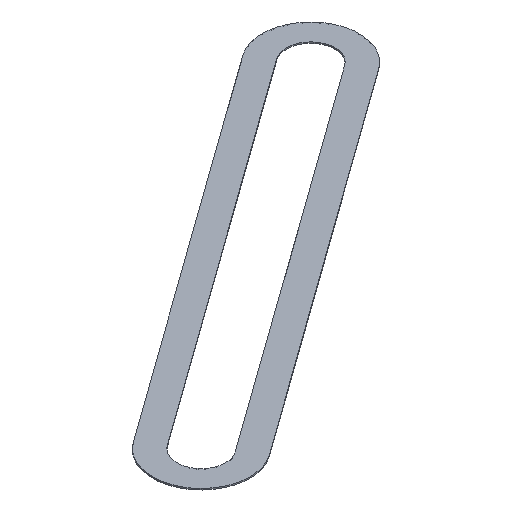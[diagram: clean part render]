
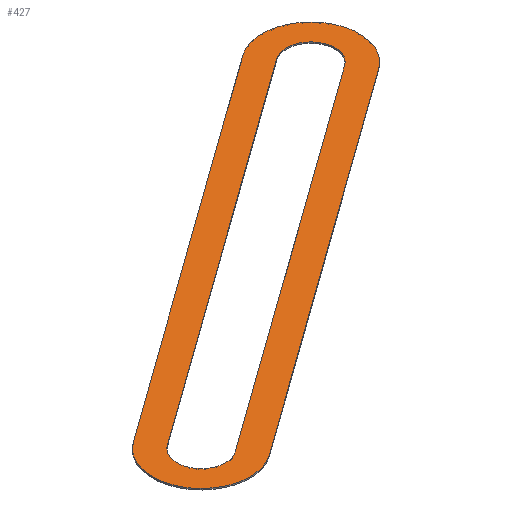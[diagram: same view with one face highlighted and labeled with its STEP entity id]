
A CAD part, isometric view. The second image highlights one B-rep face of the part: STEP entity #427.
In plain terms, the highlighted planar face has unit normal (0, 0, 1).
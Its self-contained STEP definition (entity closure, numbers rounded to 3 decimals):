
#24 = VERTEX_POINT('',#25);
#25 = CARTESIAN_POINT('',(-25.752,-22.827,12.5));
#32 = PLANE('',#33);
#33 = AXIS2_PLACEMENT_3D('',#34,#35,#36);
#34 = CARTESIAN_POINT('',(-25.752,-22.827,12.42));
#35 = DIRECTION('',(-0.584,0.812,0.));
#36 = DIRECTION('',(0.812,0.584,0.));
#44 = CYLINDRICAL_SURFACE('',#45,3.);
#45 = AXIS2_PLACEMENT_3D('',#46,#47,#48);
#46 = CARTESIAN_POINT('',(-24.,-25.262,12.42));
#47 = DIRECTION('',(0.,-0.,-1.));
#48 = DIRECTION('',(0.584,-0.812,0.));
#56 = EDGE_CURVE('',#24,#57,#59,.T.);
#57 = VERTEX_POINT('',#58);
#58 = CARTESIAN_POINT('',(-1.752,-5.565,12.5));
#59 = SURFACE_CURVE('',#60,(#64,#71),.PCURVE_S1.);
#60 = LINE('',#61,#62);
#61 = CARTESIAN_POINT('',(-25.752,-22.827,12.5));
#62 = VECTOR('',#63,1.);
#63 = DIRECTION('',(0.812,0.584,0.));
#64 = PCURVE('',#32,#65);
#65 = DEFINITIONAL_REPRESENTATION('',(#66),#70);
#66 = LINE('',#67,#68);
#67 = CARTESIAN_POINT('',(0.,-0.08));
#68 = VECTOR('',#69,1.);
#69 = DIRECTION('',(1.,0.));
#70 = ( GEOMETRIC_REPRESENTATION_CONTEXT(2) 
PARAMETRIC_REPRESENTATION_CONTEXT() REPRESENTATION_CONTEXT('2D SPACE',''
  ) );
#71 = PCURVE('',#72,#77);
#72 = PLANE('',#73);
#73 = AXIS2_PLACEMENT_3D('',#74,#75,#76);
#74 = CARTESIAN_POINT('',(-12.,-16.631,12.5));
#75 = DIRECTION('',(-0.,-0.,-1.));
#76 = DIRECTION('',(-1.,0.,0.));
#77 = DEFINITIONAL_REPRESENTATION('',(#78),#82);
#78 = LINE('',#79,#80);
#79 = CARTESIAN_POINT('',(13.752,-6.196));
#80 = VECTOR('',#81,1.);
#81 = DIRECTION('',(-0.812,0.584));
#82 = ( GEOMETRIC_REPRESENTATION_CONTEXT(2) 
PARAMETRIC_REPRESENTATION_CONTEXT() REPRESENTATION_CONTEXT('2D SPACE',''
  ) );
#100 = CYLINDRICAL_SURFACE('',#101,3.);
#101 = AXIS2_PLACEMENT_3D('',#102,#103,#104);
#102 = CARTESIAN_POINT('',(0.,-8.,12.42));
#103 = DIRECTION('',(0.,0.,-1.));
#104 = DIRECTION('',(-0.584,0.812,0.));
#144 = VERTEX_POINT('',#145);
#145 = CARTESIAN_POINT('',(-22.248,-27.697,12.5));
#159 = PLANE('',#160);
#160 = AXIS2_PLACEMENT_3D('',#161,#162,#163);
#161 = CARTESIAN_POINT('',(1.752,-10.435,12.42));
#162 = DIRECTION('',(0.584,-0.812,0.));
#163 = DIRECTION('',(-0.812,-0.584,0.));
#171 = EDGE_CURVE('',#144,#24,#172,.T.);
#172 = SURFACE_CURVE('',#173,(#178,#185),.PCURVE_S1.);
#173 = CIRCLE('',#174,3.);
#174 = AXIS2_PLACEMENT_3D('',#175,#176,#177);
#175 = CARTESIAN_POINT('',(-24.,-25.262,12.5));
#176 = DIRECTION('',(0.,-0.,-1.));
#177 = DIRECTION('',(0.584,-0.812,0.));
#178 = PCURVE('',#44,#179);
#179 = DEFINITIONAL_REPRESENTATION('',(#180),#184);
#180 = LINE('',#181,#182);
#181 = CARTESIAN_POINT('',(0.,-0.08));
#182 = VECTOR('',#183,1.);
#183 = DIRECTION('',(1.,0.));
#184 = ( GEOMETRIC_REPRESENTATION_CONTEXT(2) 
PARAMETRIC_REPRESENTATION_CONTEXT() REPRESENTATION_CONTEXT('2D SPACE',''
  ) );
#185 = PCURVE('',#72,#186);
#186 = DEFINITIONAL_REPRESENTATION('',(#187),#191);
#187 = CIRCLE('',#188,3.);
#188 = AXIS2_PLACEMENT_2D('',#189,#190);
#189 = CARTESIAN_POINT('',(12.,-8.631));
#190 = DIRECTION('',(-0.584,-0.812));
#191 = ( GEOMETRIC_REPRESENTATION_CONTEXT(2) 
PARAMETRIC_REPRESENTATION_CONTEXT() REPRESENTATION_CONTEXT('2D SPACE',''
  ) );
#220 = EDGE_CURVE('',#57,#221,#223,.T.);
#221 = VERTEX_POINT('',#222);
#222 = CARTESIAN_POINT('',(1.752,-10.435,12.5));
#223 = SURFACE_CURVE('',#224,(#229,#236),.PCURVE_S1.);
#224 = CIRCLE('',#225,3.);
#225 = AXIS2_PLACEMENT_3D('',#226,#227,#228);
#226 = CARTESIAN_POINT('',(0.,-8.,12.5));
#227 = DIRECTION('',(0.,0.,-1.));
#228 = DIRECTION('',(-0.584,0.812,0.));
#229 = PCURVE('',#100,#230);
#230 = DEFINITIONAL_REPRESENTATION('',(#231),#235);
#231 = LINE('',#232,#233);
#232 = CARTESIAN_POINT('',(0.,-0.08));
#233 = VECTOR('',#234,1.);
#234 = DIRECTION('',(1.,0.));
#235 = ( GEOMETRIC_REPRESENTATION_CONTEXT(2) 
PARAMETRIC_REPRESENTATION_CONTEXT() REPRESENTATION_CONTEXT('2D SPACE',''
  ) );
#236 = PCURVE('',#72,#237);
#237 = DEFINITIONAL_REPRESENTATION('',(#238),#242);
#238 = CIRCLE('',#239,3.);
#239 = AXIS2_PLACEMENT_2D('',#240,#241);
#240 = CARTESIAN_POINT('',(-12.,8.631));
#241 = DIRECTION('',(0.584,0.812));
#242 = ( GEOMETRIC_REPRESENTATION_CONTEXT(2) 
PARAMETRIC_REPRESENTATION_CONTEXT() REPRESENTATION_CONTEXT('2D SPACE',''
  ) );
#335 = PLANE('',#336);
#336 = AXIS2_PLACEMENT_3D('',#337,#338,#339);
#337 = CARTESIAN_POINT('',(-24.876,-24.044,12.4));
#338 = DIRECTION('',(-0.584,0.812,0.));
#339 = DIRECTION('',(0.812,0.584,0.));
#363 = CYLINDRICAL_SURFACE('',#364,1.5);
#364 = AXIS2_PLACEMENT_3D('',#365,#366,#367);
#365 = CARTESIAN_POINT('',(-24.,-25.262,12.4));
#366 = DIRECTION('',(0.,-0.,-1.));
#367 = DIRECTION('',(0.584,-0.812,0.));
#390 = PLANE('',#391);
#391 = AXIS2_PLACEMENT_3D('',#392,#393,#394);
#392 = CARTESIAN_POINT('',(0.876,-9.218,12.4));
#393 = DIRECTION('',(0.584,-0.812,0.));
#394 = DIRECTION('',(-0.812,-0.584,0.));
#416 = CYLINDRICAL_SURFACE('',#417,1.5);
#417 = AXIS2_PLACEMENT_3D('',#418,#419,#420);
#418 = CARTESIAN_POINT('',(0.,-8.,12.4));
#419 = DIRECTION('',(0.,0.,-1.));
#420 = DIRECTION('',(-0.584,0.812,0.));
#427 = ADVANCED_FACE('',(#428,#454),#72,.F.);
#428 = FACE_BOUND('',#429,.F.);
#429 = EDGE_LOOP('',(#430,#431,#432,#453));
#430 = ORIENTED_EDGE('',*,*,#56,.T.);
#431 = ORIENTED_EDGE('',*,*,#220,.T.);
#432 = ORIENTED_EDGE('',*,*,#433,.T.);
#433 = EDGE_CURVE('',#221,#144,#434,.T.);
#434 = SURFACE_CURVE('',#435,(#439,#446),.PCURVE_S1.);
#435 = LINE('',#436,#437);
#436 = CARTESIAN_POINT('',(1.752,-10.435,12.5));
#437 = VECTOR('',#438,1.);
#438 = DIRECTION('',(-0.812,-0.584,0.));
#439 = PCURVE('',#72,#440);
#440 = DEFINITIONAL_REPRESENTATION('',(#441),#445);
#441 = LINE('',#442,#443);
#442 = CARTESIAN_POINT('',(-13.752,6.196));
#443 = VECTOR('',#444,1.);
#444 = DIRECTION('',(0.812,-0.584));
#445 = ( GEOMETRIC_REPRESENTATION_CONTEXT(2) 
PARAMETRIC_REPRESENTATION_CONTEXT() REPRESENTATION_CONTEXT('2D SPACE',''
  ) );
#446 = PCURVE('',#159,#447);
#447 = DEFINITIONAL_REPRESENTATION('',(#448),#452);
#448 = LINE('',#449,#450);
#449 = CARTESIAN_POINT('',(0.,-0.08));
#450 = VECTOR('',#451,1.);
#451 = DIRECTION('',(1.,0.));
#452 = ( GEOMETRIC_REPRESENTATION_CONTEXT(2) 
PARAMETRIC_REPRESENTATION_CONTEXT() REPRESENTATION_CONTEXT('2D SPACE',''
  ) );
#453 = ORIENTED_EDGE('',*,*,#171,.T.);
#454 = FACE_BOUND('',#455,.F.);
#455 = EDGE_LOOP('',(#456,#479,#503,#524));
#456 = ORIENTED_EDGE('',*,*,#457,.F.);
#457 = EDGE_CURVE('',#458,#460,#462,.T.);
#458 = VERTEX_POINT('',#459);
#459 = CARTESIAN_POINT('',(-24.876,-24.044,12.5));
#460 = VERTEX_POINT('',#461);
#461 = CARTESIAN_POINT('',(-0.876,-6.782,12.5));
#462 = SURFACE_CURVE('',#463,(#467,#473),.PCURVE_S1.);
#463 = LINE('',#464,#465);
#464 = CARTESIAN_POINT('',(-18.876,-19.729,12.5));
#465 = VECTOR('',#466,1.);
#466 = DIRECTION('',(0.812,0.584,-0.));
#467 = PCURVE('',#72,#468);
#468 = DEFINITIONAL_REPRESENTATION('',(#469),#472);
#469 = B_SPLINE_CURVE_WITH_KNOTS('',1,(#470,#471),.UNSPECIFIED.,.F.,.F.,
  (2,2),(-7.391,22.172),.PIECEWISE_BEZIER_KNOTS.);
#470 = CARTESIAN_POINT('',(12.876,-7.413));
#471 = CARTESIAN_POINT('',(-11.124,9.849));
#472 = ( GEOMETRIC_REPRESENTATION_CONTEXT(2) 
PARAMETRIC_REPRESENTATION_CONTEXT() REPRESENTATION_CONTEXT('2D SPACE',''
  ) );
#473 = PCURVE('',#335,#474);
#474 = DEFINITIONAL_REPRESENTATION('',(#475),#478);
#475 = B_SPLINE_CURVE_WITH_KNOTS('',1,(#476,#477),.UNSPECIFIED.,.F.,.F.,
  (2,2),(-7.391,22.172),.PIECEWISE_BEZIER_KNOTS.);
#476 = CARTESIAN_POINT('',(0.,-0.1));
#477 = CARTESIAN_POINT('',(29.563,-0.1));
#478 = ( GEOMETRIC_REPRESENTATION_CONTEXT(2) 
PARAMETRIC_REPRESENTATION_CONTEXT() REPRESENTATION_CONTEXT('2D SPACE',''
  ) );
#479 = ORIENTED_EDGE('',*,*,#480,.F.);
#480 = EDGE_CURVE('',#481,#458,#483,.T.);
#481 = VERTEX_POINT('',#482);
#482 = CARTESIAN_POINT('',(-23.124,-26.48,12.5));
#483 = SURFACE_CURVE('',#484,(#489,#496),.PCURVE_S1.);
#484 = CIRCLE('',#485,1.5);
#485 = AXIS2_PLACEMENT_3D('',#486,#487,#488);
#486 = CARTESIAN_POINT('',(-24.,-25.262,12.5));
#487 = DIRECTION('',(0.,-0.,-1.));
#488 = DIRECTION('',(0.584,-0.812,0.));
#489 = PCURVE('',#72,#490);
#490 = DEFINITIONAL_REPRESENTATION('',(#491),#495);
#491 = CIRCLE('',#492,1.5);
#492 = AXIS2_PLACEMENT_2D('',#493,#494);
#493 = CARTESIAN_POINT('',(12.,-8.631));
#494 = DIRECTION('',(-0.584,-0.812));
#495 = ( GEOMETRIC_REPRESENTATION_CONTEXT(2) 
PARAMETRIC_REPRESENTATION_CONTEXT() REPRESENTATION_CONTEXT('2D SPACE',''
  ) );
#496 = PCURVE('',#363,#497);
#497 = DEFINITIONAL_REPRESENTATION('',(#498),#502);
#498 = LINE('',#499,#500);
#499 = CARTESIAN_POINT('',(0.,-0.1));
#500 = VECTOR('',#501,1.);
#501 = DIRECTION('',(1.,0.));
#502 = ( GEOMETRIC_REPRESENTATION_CONTEXT(2) 
PARAMETRIC_REPRESENTATION_CONTEXT() REPRESENTATION_CONTEXT('2D SPACE',''
  ) );
#503 = ORIENTED_EDGE('',*,*,#504,.F.);
#504 = EDGE_CURVE('',#505,#481,#507,.T.);
#505 = VERTEX_POINT('',#506);
#506 = CARTESIAN_POINT('',(0.876,-9.218,12.5));
#507 = SURFACE_CURVE('',#508,(#512,#518),.PCURVE_S1.);
#508 = LINE('',#509,#510);
#509 = CARTESIAN_POINT('',(-5.124,-13.533,12.5));
#510 = VECTOR('',#511,1.);
#511 = DIRECTION('',(-0.812,-0.584,0.));
#512 = PCURVE('',#72,#513);
#513 = DEFINITIONAL_REPRESENTATION('',(#514),#517);
#514 = B_SPLINE_CURVE_WITH_KNOTS('',1,(#515,#516),.UNSPECIFIED.,.F.,.F.,
  (2,2),(-7.391,22.172),.PIECEWISE_BEZIER_KNOTS.);
#515 = CARTESIAN_POINT('',(-12.876,7.413));
#516 = CARTESIAN_POINT('',(11.124,-9.849));
#517 = ( GEOMETRIC_REPRESENTATION_CONTEXT(2) 
PARAMETRIC_REPRESENTATION_CONTEXT() REPRESENTATION_CONTEXT('2D SPACE',''
  ) );
#518 = PCURVE('',#390,#519);
#519 = DEFINITIONAL_REPRESENTATION('',(#520),#523);
#520 = B_SPLINE_CURVE_WITH_KNOTS('',1,(#521,#522),.UNSPECIFIED.,.F.,.F.,
  (2,2),(-7.391,22.172),.PIECEWISE_BEZIER_KNOTS.);
#521 = CARTESIAN_POINT('',(0.,-0.1));
#522 = CARTESIAN_POINT('',(29.563,-0.1));
#523 = ( GEOMETRIC_REPRESENTATION_CONTEXT(2) 
PARAMETRIC_REPRESENTATION_CONTEXT() REPRESENTATION_CONTEXT('2D SPACE',''
  ) );
#524 = ORIENTED_EDGE('',*,*,#525,.F.);
#525 = EDGE_CURVE('',#460,#505,#526,.T.);
#526 = SURFACE_CURVE('',#527,(#532,#539),.PCURVE_S1.);
#527 = CIRCLE('',#528,1.5);
#528 = AXIS2_PLACEMENT_3D('',#529,#530,#531);
#529 = CARTESIAN_POINT('',(0.,-8.,12.5));
#530 = DIRECTION('',(0.,0.,-1.));
#531 = DIRECTION('',(-0.584,0.812,0.));
#532 = PCURVE('',#72,#533);
#533 = DEFINITIONAL_REPRESENTATION('',(#534),#538);
#534 = CIRCLE('',#535,1.5);
#535 = AXIS2_PLACEMENT_2D('',#536,#537);
#536 = CARTESIAN_POINT('',(-12.,8.631));
#537 = DIRECTION('',(0.584,0.812));
#538 = ( GEOMETRIC_REPRESENTATION_CONTEXT(2) 
PARAMETRIC_REPRESENTATION_CONTEXT() REPRESENTATION_CONTEXT('2D SPACE',''
  ) );
#539 = PCURVE('',#416,#540);
#540 = DEFINITIONAL_REPRESENTATION('',(#541),#545);
#541 = LINE('',#542,#543);
#542 = CARTESIAN_POINT('',(0.,-0.1));
#543 = VECTOR('',#544,1.);
#544 = DIRECTION('',(1.,0.));
#545 = ( GEOMETRIC_REPRESENTATION_CONTEXT(2) 
PARAMETRIC_REPRESENTATION_CONTEXT() REPRESENTATION_CONTEXT('2D SPACE',''
  ) );
